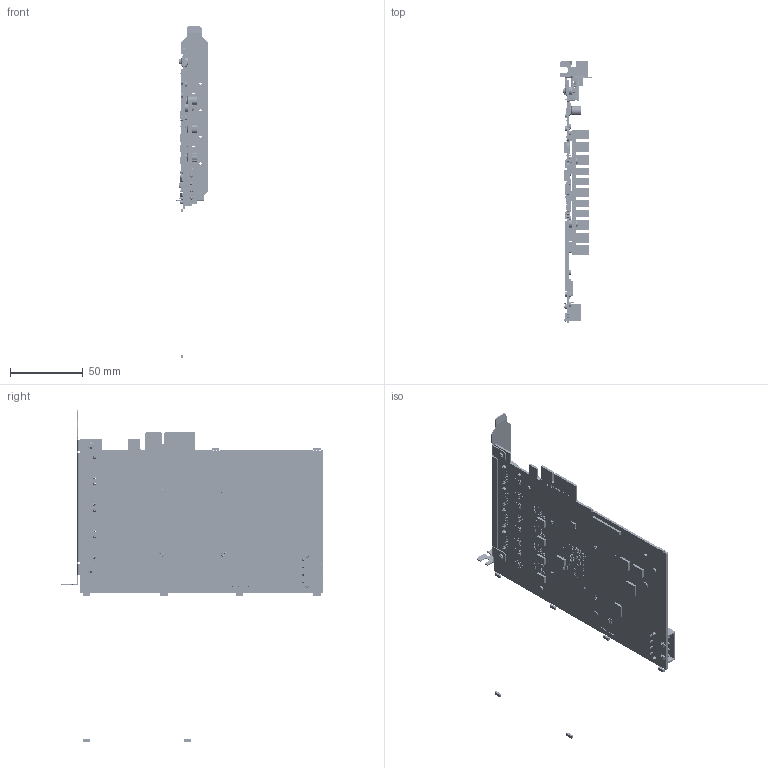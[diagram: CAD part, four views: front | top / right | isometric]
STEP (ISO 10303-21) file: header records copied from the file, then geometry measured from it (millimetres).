
FILE_DESCRIPTION((''),'2;1');
FILE_NAME('DE-30-000346_ASM','2022-07-01T11:08:35',('qinyangfan'),(''),'CREO PARAMETRIC BY PTC INC, 2020044','CREO PARAMETRIC BY PTC INC, 2020044','');
FILE_SCHEMA(('CONFIG_CONTROL_DESIGN'));
Products named in the file (90): MV-20311REV10-202205112021; 100700279; 101300388; 1001; 100100452; 100100456; 100100458; 100201310; 100201285; 100200004; 100200002; 100201010; 100300227; 100100471; 100200304; 100100449; 100100789; 100101339; 100100546; 100300241; 100100701; 100200011; 100101131; 100200007; 1004; 100100288; 100102168; 100200471; 100200014; 100200009; 100201489; 100200432; 100100117; 1003; 100200816; 1005; 1002; 100300787; 100300212; 100300565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
Assembly tree (659 placements, depth 4):
  DE-30-000346_ASM
    PCB_U_ASM
      MV-20311REV10-202205112021_ASM
        MV-20311REV10-202205112021
        100700279
        101300388  x2
        1001  x66
        100100452  x38
        100100456  x19
        100100458  x9
        100201310  x7
        100201285  x10
        100200004  x119
        100200002  x33
        100201010  x43
        100300227  x2
        100100471  x25
        100200304
        100100449  x2
        100100789  x2
        100101339
        100100546  x2
        100300241  x9
        100100701
        100200011
        100101131
        100200007  x6
        1004  x6
        100100288
        100102168
        100200471
        100200014  x4
        100200009  x8
        100201489  x31
        100200432  x7
        100100117
        1003
        100200816  x10
        1005  x4
        1002
        100300787
        100300212  x4
        100300565
        101301214
        101105077  x5
        101302960  x4
        100900351  x4
        100300159  x12
        100100375  x4
        100800269  x4
        100600725  x4
        100900657  x4
        100900778  x2
        101107004
        101107176
        101106392
        101106855
        101106457
        100201216  x19
        100200454  x6
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Bounding box: 21.59 x 181.07 x 228.77 mm (x, y, z)
Volume: 60999.2 mm3; surface area: 98161.1 mm2
Topology: 656 solids, 668 shells, 21429 faces, 58959 edges, 39038 vertices
Faces by surface type: plane 15407, cylinder 4146, torus 1348, sphere 192, cone 160, bspline 156, revolution 20
Entity records: 171977 total; most frequent: CARTESIAN_POINT 34584, DIRECTION 28743, ORIENTED_EDGE 27678, EDGE_CURVE 13853, VECTOR 10456, LINE 10456, AXIS2_PLACEMENT_3D 9141, VERTEX_POINT 9071
